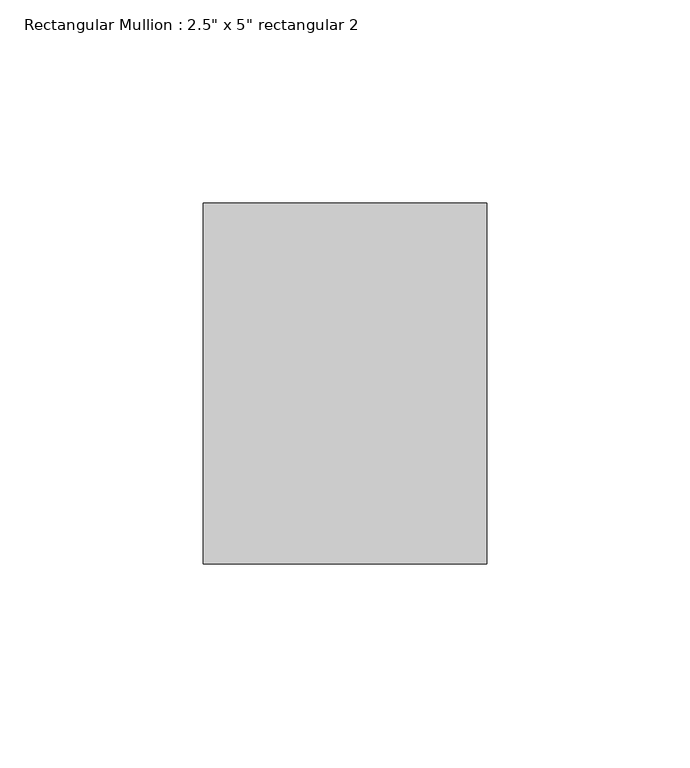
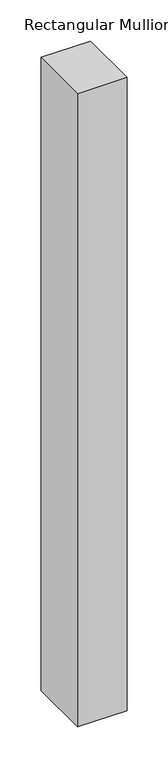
"""IFC4 building model written with IfcOpenShell, lengths in millimetres: member geometry."""

from ifc_helpers import new_model, si_unit, frame, origin, place, context, project, spatial, polyline, outline, extrude, source, transform, mapped, element, save


def member_f059bfab(model_context):
    return source(origin(), model_context, "Body", "SweptSolid", [
        extrude(outline(polyline([(0.0, 44.45), (0.0, -44.45), (-69.85, -44.45), (-69.85, 44.45), (0.0, 44.45)])), frame((0.0, 0.0, -941.9166667), z_axis=(0.0, 0.0, 1.0), x_axis=(1.0, 0.0, 0.0)), (0.0, 0.0, 1.0), 941.9166667),
    ])


if __name__ == "__main__":
    model = new_model("IFC4")
    model_context = context("Model", 3, world=origin())
    ifc_project = project(units=[si_unit("LENGTHUNIT", "METRE", prefix="MILLI")], contexts=[model_context])
    site = spatial("IfcSite", under=ifc_project)
    building = spatial("IfcBuilding", under=site)
    placement = place(None, origin())
    member_shape = member_f059bfab(model_context)
    element("IfcMember", 1, ObjectType="Rectangular Mullion : 2.5\" x 5\" rectangular 2", at=placement, inside=building, context=model_context, shape_type="MappedRepresentation", body=[
        mapped(member_shape, transform((0.0, 0.0, 0.0), x_axis=(1.0, 0.0, 0.0), y_axis=(0.0, 1.0, 0.0), z_axis=(0.0, 0.0, 1.0))),
    ])
    save(model, "model.ifc")
